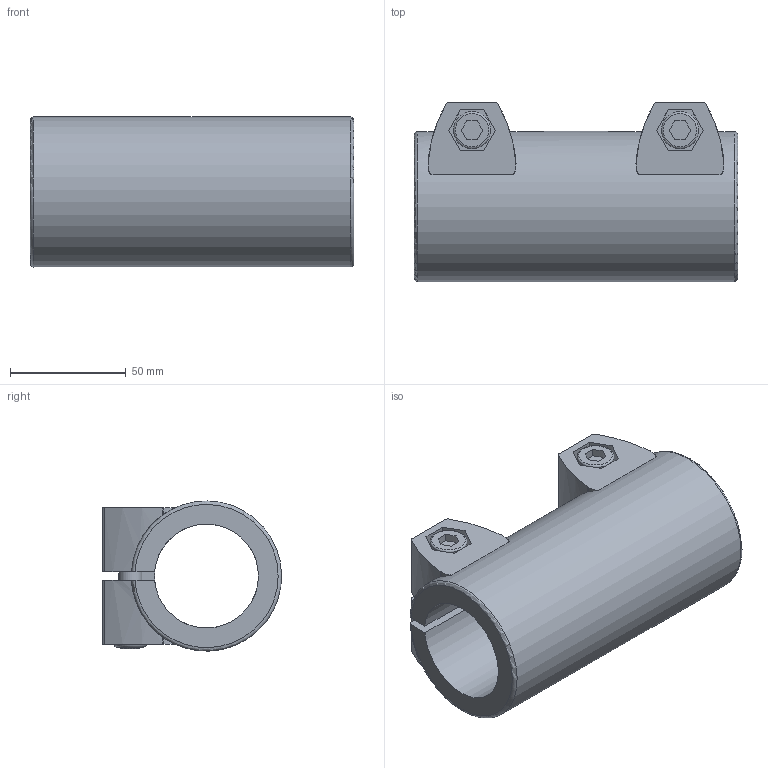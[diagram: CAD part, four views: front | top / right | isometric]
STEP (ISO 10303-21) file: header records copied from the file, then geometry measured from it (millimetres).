
FILE_DESCRIPTION( ( 'STEP AP203' ), '1' );
FILE_NAME( 'C:/Temp/Ganter_Step_05_03_2020/data/3_7/gn242/gn242_2/Tube connector GN 242-B45-B50-2-BL.stp', '2020-03-12T14:40:20', ( 'License CC BY-ND 4.0' ), ( 'CADENAS' ), ' ', 'PARTsolutions', ' ' );
FILE_SCHEMA( ( 'CONFIG_CONTROL_DESIGN' ) );
Length unit declared in the file: millimetre
Products named in the file (1): _Tube connector GN 242-B45-B50-2-BL
Bounding box: 140 x 77.48 x 64.96 mm (x, y, z)
Volume: 271073.1 mm3; surface area: 65690.8 mm2
Topology: 1 solids, 1 shells, 164 faces, 441 edges, 290 vertices
Faces by surface type: plane 85, cylinder 67, torus 8, cone 4
Full cylindrical faces by diameter (mm): 10 x2, 14 x2, 16 x2, 45 x1, 50 x1, 65 x1
Entity records: 5296 total; most frequent: CARTESIAN_POINT 1285, ORIENTED_EDGE 828, DIRECTION 790, EDGE_CURVE 414, VERTEX_POINT 284, AXIS2_PLACEMENT_3D 277, LINE 236, VECTOR 236
